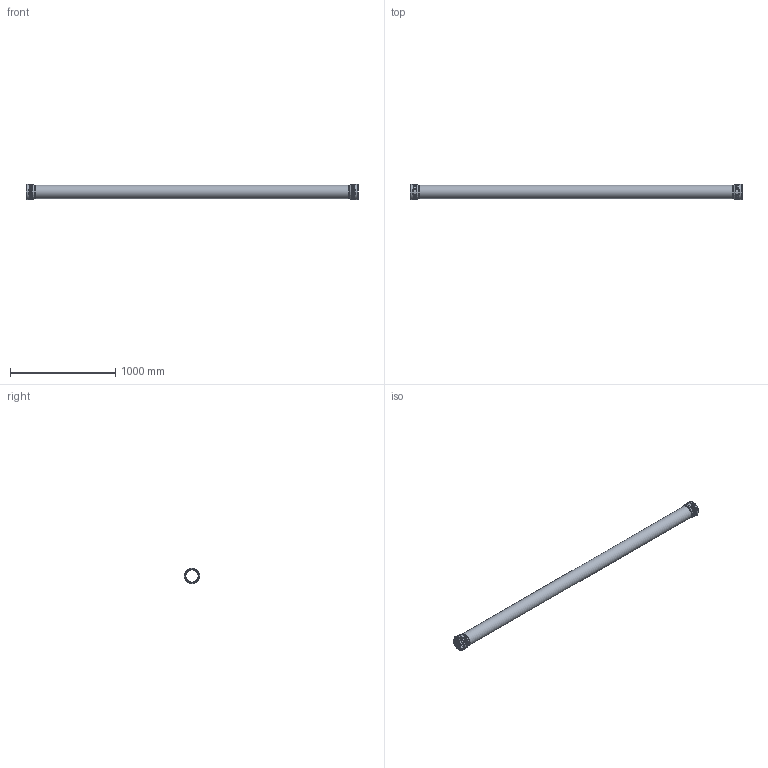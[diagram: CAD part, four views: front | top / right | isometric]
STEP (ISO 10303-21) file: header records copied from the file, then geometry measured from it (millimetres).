
FILE_DESCRIPTION(/* description */ (''),/* implementation_level */ '2;1');
FILE_NAME(/* name */ 'H:\Geberit-Teile\Export\PP_Rohr 2 Muffen_TEST\stp\393614.stp',/* time_stamp */ '2017-02-13T17:12:21+01:00',/* author */ ('seihe2'),/* organization */ (''),/* preprocessor_version */ 'ST-DEVELOPER v15.2',/* originating_system */ 'Autodesk Inventor 2014',/* authorisation */ '');
FILE_SCHEMA (('AUTOMOTIVE_DESIGN { 1 0 10303 214 3 1 1 }'));
Length unit declared in the file: millimetre
Products named in the file (1): 393614
Bounding box: 3147.8 x 146.35 x 146.35 mm (x, y, z)
Volume: 6004811.7 mm3; surface area: 2441197.1 mm2
Topology: 3 solids, 3 shells, 70 faces, 152 edges, 106 vertices
Faces by surface type: torus 34, cylinder 18, plane 14, bspline 2, cone 2
Full cylindrical faces by diameter (mm): 115.2 x3, 125.2 x3, 126.2 x2, 129.2 x2, 135.2 x2, 137.75 x2, 138.2 x2, 146.35 x2
Entity records: 4532 total; most frequent: CARTESIAN_POINT 3113, ORIENTED_EDGE 236, DIRECTION 234, EDGE_LOOP 126, EDGE_CURVE 118, AXIS2_PLACEMENT_3D 117, VERTEX_POINT 104, STYLED_ITEM 73
